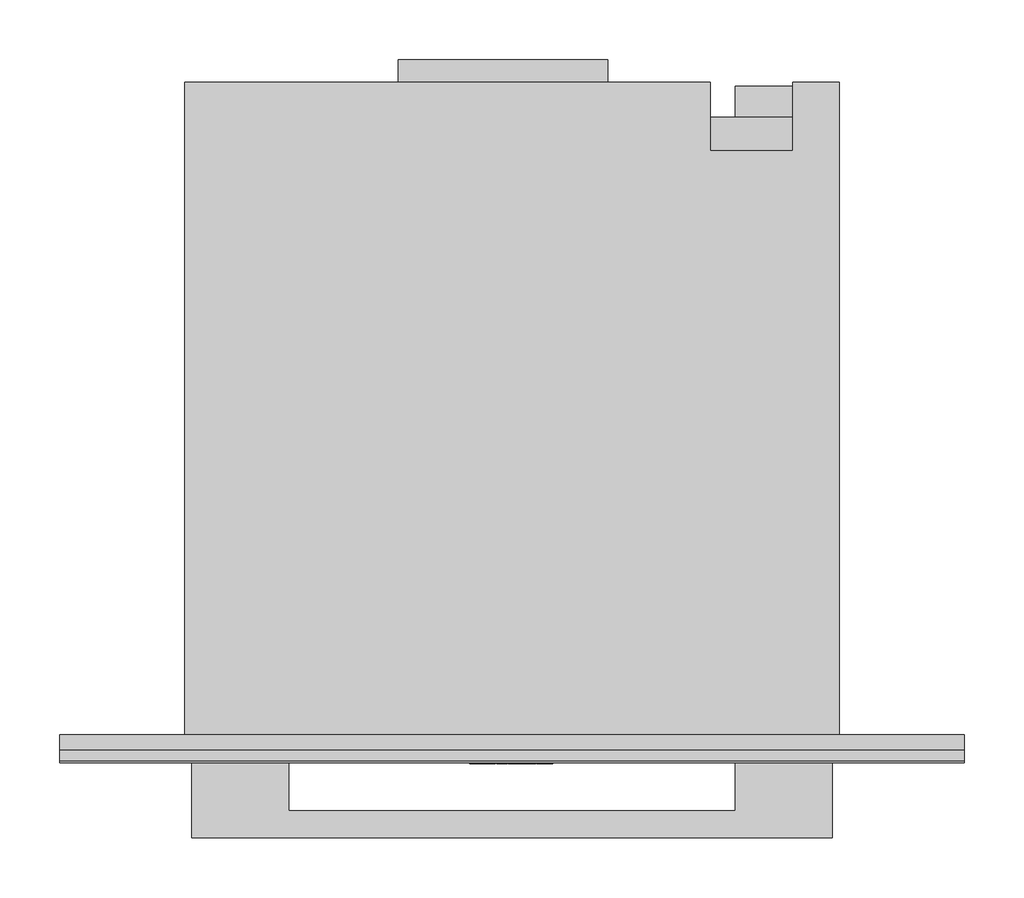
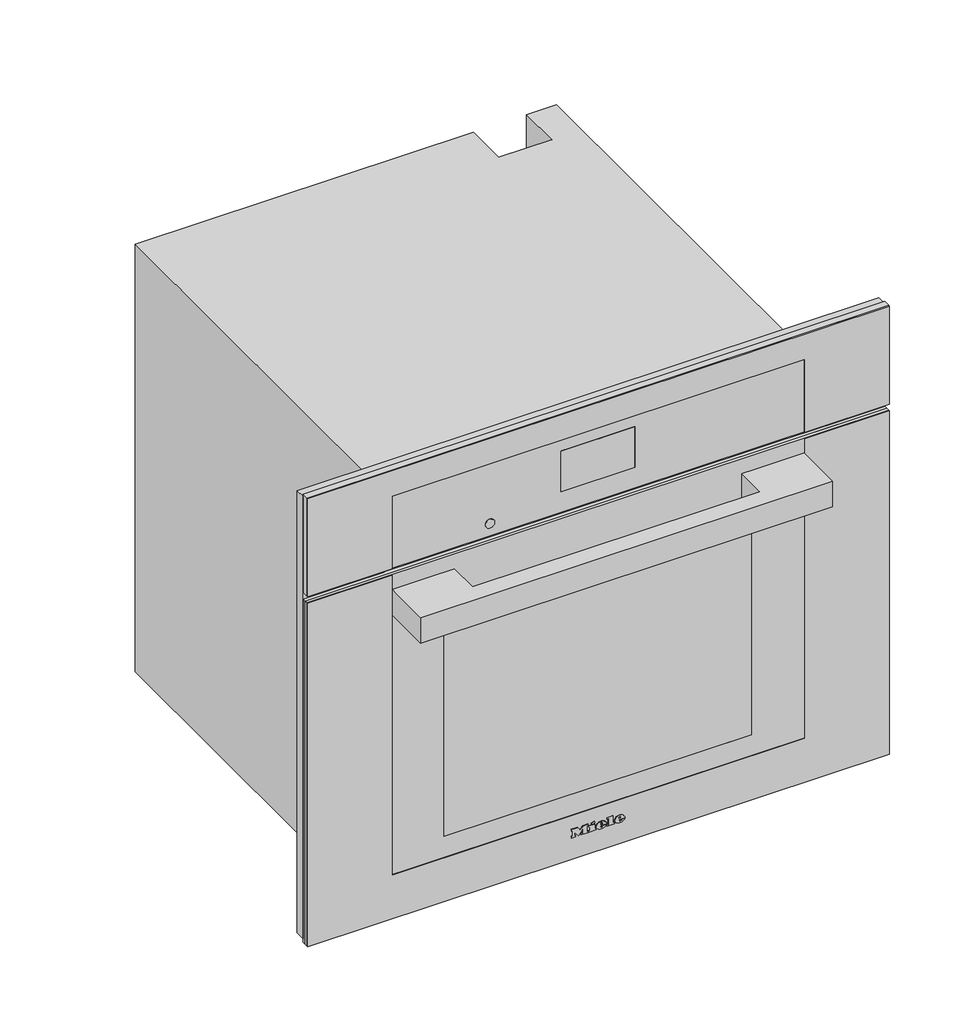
# Not in any storey: 1 proxy.
"""IFC4 building model written with IfcOpenShell, lengths in millimetres."""

from ifc_helpers import new_model, si_unit, origin, place, context, project, spatial, transform, mapped, element, save
from components import specialty_equipment_743d4abd

model = new_model("IFC4")

# Units and contexts
model_context = context("Model", 3, world=origin())
ifc_project = project(units=[si_unit("LENGTHUNIT", "METRE", prefix="MILLI")], contexts=[model_context])

# Site, building
site = spatial("IfcSite", under=ifc_project)
building = spatial("IfcBuilding", under=site)

# Proxy
placement = place(None, origin())
specialty_equipment_shape = specialty_equipment_743d4abd(model_context)
element("IfcBuildingElementProxy", 1, Name="11876020_USA_DGC7580_EDST-CLST : 23758043_USA_11876020_DGC7580_EDST-CLST", ObjectType="11876020_USA_DGC7580_EDST-CLST : 23758043_USA_11876020_DGC7580_EDST-CLST", at=placement, inside=building, context=model_context, shape_type="MappedRepresentation", body=[
    mapped(specialty_equipment_shape, transform((0.0, 0.0, 0.0), x_axis=(1.0, 0.0, 0.0), y_axis=(0.0, 1.0, 0.0), z_axis=(0.0, 0.0, 1.0))),
])

save(model, "model.ifc")
